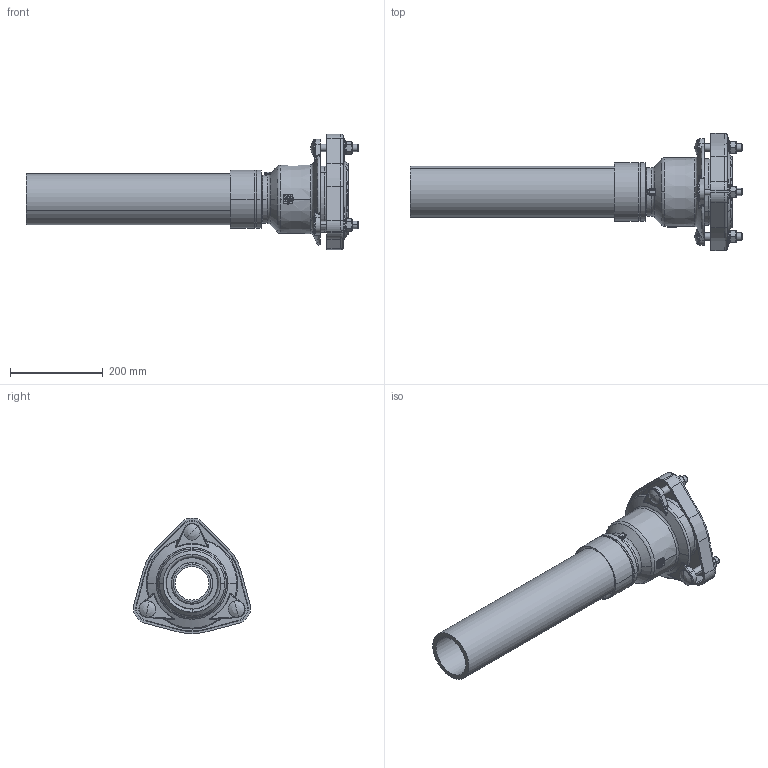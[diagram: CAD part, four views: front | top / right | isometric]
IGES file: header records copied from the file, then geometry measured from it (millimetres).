
Global section: file name: No Iges File Name specified; native system: AutoDesk Inventor R12.0; preprocessor: AutoDesk Inventor Iges Exporter R12.0; date: 20120509.093034; units: millimetre
Bounding box: 714.06 x 252.11 x 248.25 mm (x, y, z)
Volume: 2915876.4 mm3; surface area: 709868.7 mm2
Topology: 1 solids, 1 shells, 629 faces, 1613 edges, 1012 vertices
Faces by surface type: plane 169, revolution 122, cylinder 118, bspline 101, cone 69, torus 50
